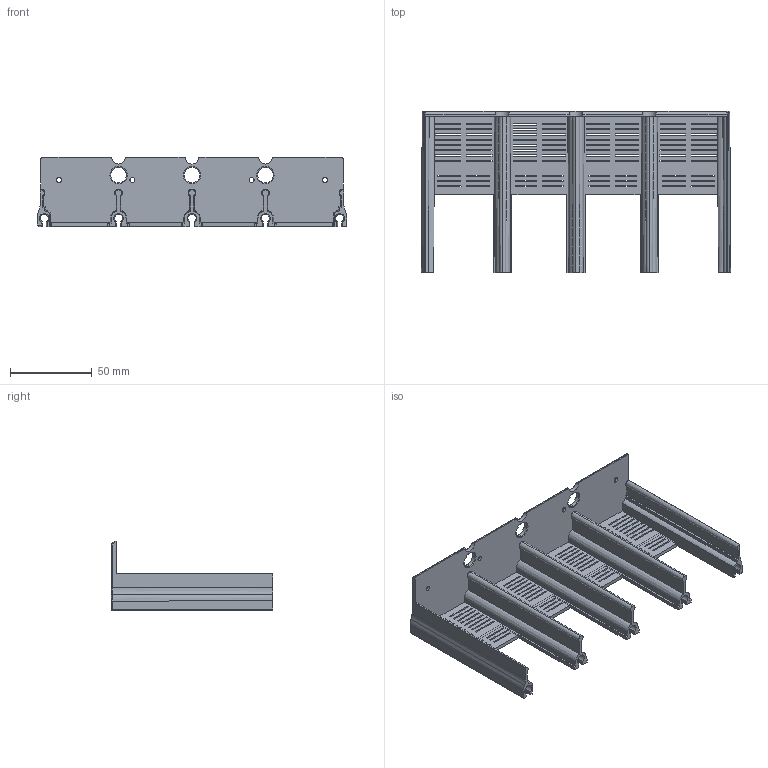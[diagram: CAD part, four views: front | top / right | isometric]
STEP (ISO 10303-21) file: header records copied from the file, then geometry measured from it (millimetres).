
FILE_DESCRIPTION (( 'STEP AP203' ), '1' );
FILE_NAME ('5-400-4P-傷赽欶.STEP', '2024-11-05T02:33:16', ( 'A' ), ( '' ), 'SwSTEP 2.0', 'SolidWorks 2018', '' );
FILE_SCHEMA (( 'CONFIG_CONTROL_DESIGN' ));
Length unit declared in the file: millimetre
Products named in the file (1): 5-400-4P-傷赽欶
Bounding box: 189.36 x 99 x 42.3 mm (x, y, z)
Volume: 73258.5 mm3; surface area: 71333 mm2
Topology: 1 solids, 1 shells, 588 faces, 1691 edges, 1101 vertices
Faces by surface type: plane 456, cone 52, cylinder 50, torus 15, bspline 9, sphere 6
Entity records: 19830 total; most frequent: CARTESIAN_POINT 4214, ORIENTED_EDGE 3374, DIRECTION 2869, EDGE_CURVE 1687, VECTOR 1397, LINE 1397, VERTEX_POINT 1101, EDGE_LOOP 778
